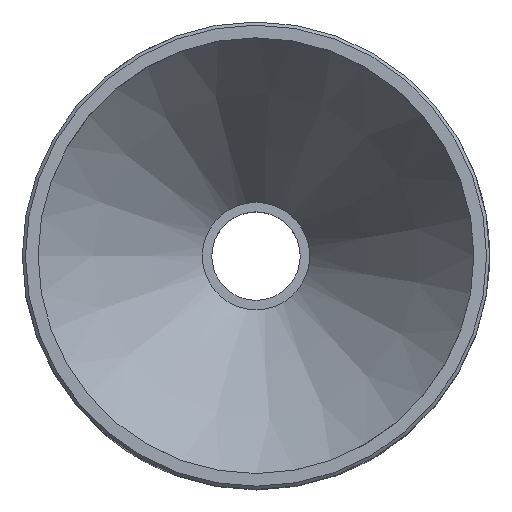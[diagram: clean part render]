
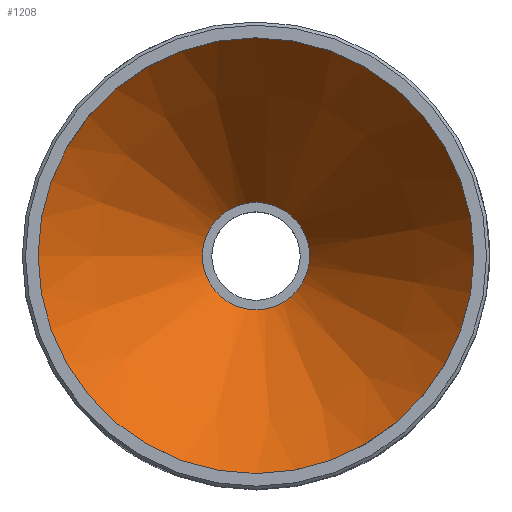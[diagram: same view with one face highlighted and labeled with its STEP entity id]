
A CAD part, top view. The second image highlights one B-rep face of the part: STEP entity #1208.
In plain terms, the highlighted conical face has half-angle 36.219 degrees and reference radius 21.5 mm.
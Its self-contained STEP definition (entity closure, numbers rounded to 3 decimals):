
#1001=CARTESIAN_POINT('',(-34.5,0.,53.5));
#1002=VERTEX_POINT('',#1001);
#1003=CARTESIAN_POINT('',(0.,0.,53.5));
#1004=DIRECTION('',(0.0,0.0,1.0));
#1005=DIRECTION('',(-1.0,0.0,0.0));
#1006=AXIS2_PLACEMENT_3D('',#1003,#1004,#1005);
#1007=CIRCLE('',#1006,34.5);
#1008=EDGE_CURVE('',#1002,#1002,#1007,.T.);
#1189=CARTESIAN_POINT('',(0.,0.,35.75));
#1190=DIRECTION('',(0.,0.,1.0));
#1191=DIRECTION('',(-1.0,0.0,0.0));
#1192=AXIS2_PLACEMENT_3D('',#1189,#1190,#1191);
#1193=CONICAL_SURFACE('',#1192,21.5,36.219);
#1194=CARTESIAN_POINT('',(8.5,0.,18.));
#1195=VERTEX_POINT('',#1194);
#1196=CARTESIAN_POINT('',(0.0,0.0,18.));
#1197=DIRECTION('',(0.0,0.0,-1.0));
#1198=DIRECTION('',(-1.0,0.0,0.0));
#1199=AXIS2_PLACEMENT_3D('',#1196,#1197,#1198);
#1200=CIRCLE('',#1199,8.5);
#1201=EDGE_CURVE('',#1195,#1195,#1200,.T.);
#1202=ORIENTED_EDGE('',*,*,#1201,.T.);
#1203=EDGE_LOOP('',(#1202));
#1204=FACE_OUTER_BOUND('',#1203,.T.);
#1205=ORIENTED_EDGE('',*,*,#1008,.T.);
#1206=EDGE_LOOP('',(#1205));
#1207=FACE_BOUND('',#1206,.T.);
#1208=ADVANCED_FACE('',(#1204,#1207),#1193,.F.);
